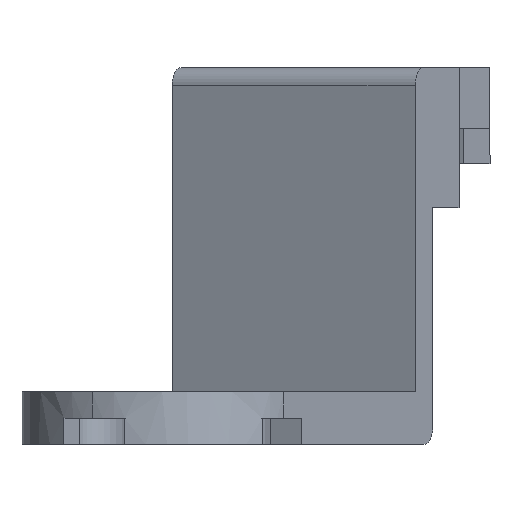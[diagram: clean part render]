
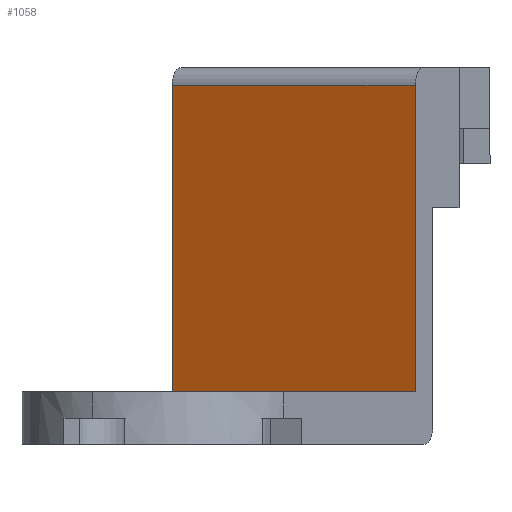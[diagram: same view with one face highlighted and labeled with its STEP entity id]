
A CAD part, left-side view. The second image highlights one B-rep face of the part: STEP entity #1058.
In plain terms, the highlighted planar face has unit normal (-0.866, 0.5, 0) as drawn and (-1, 0, 0) by its records, which use the part's own axes.
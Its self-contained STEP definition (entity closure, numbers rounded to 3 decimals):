
#77 = VERTEX_POINT ( 'NONE', #948 ) ;
#101 = CARTESIAN_POINT ( 'NONE',  ( 15., -8., 0. ) ) ;
#116 = EDGE_CURVE ( 'NONE', #77, #1614, #1662, .T. ) ;
#126 = CARTESIAN_POINT ( 'NONE',  ( 15., 8., 0. ) ) ;
#129 = ORIENTED_EDGE ( 'NONE', *, *, #116, .T. ) ;
#166 = LINE ( 'NONE', #758, #592 ) ;
#326 = CARTESIAN_POINT ( 'NONE',  ( 15., -8., -17.5 ) ) ;
#349 = DIRECTION ( 'NONE',  ( 0., -1., 0. ) ) ;
#384 = VECTOR ( 'NONE', #777, 1000. ) ;
#426 = VECTOR ( 'NONE', #1021, 1000. ) ;
#491 = ORIENTED_EDGE ( 'NONE', *, *, #1215, .T. ) ;
#532 = VECTOR ( 'NONE', #349, 1000. ) ;
#592 = VECTOR ( 'NONE', #1336, 1000. ) ;
#651 = CARTESIAN_POINT ( 'NONE',  ( 15., -44.401, -17.5 ) ) ;
#653 = CARTESIAN_POINT ( 'NONE',  ( 15., -8., -32. ) ) ;
#716 = AXIS2_PLACEMENT_3D ( 'NONE', #1004, #1442, #1307 ) ;
#729 = CARTESIAN_POINT ( 'NONE',  ( 15., 8., 0. ) ) ;
#758 = CARTESIAN_POINT ( 'NONE',  ( 15., 8., -32. ) ) ;
#777 = DIRECTION ( 'NONE',  ( 0., 0., 1. ) ) ;
#879 = PLANE ( 'NONE',  #716 ) ;
#948 = CARTESIAN_POINT ( 'NONE',  ( 15., 8., -17.5 ) ) ;
#1004 = CARTESIAN_POINT ( 'NONE',  ( 15., -44.401, -32. ) ) ;
#1021 = DIRECTION ( 'NONE',  ( 0., 1., 0. ) ) ;
#1058 = ADVANCED_FACE ( 'NONE', ( #1585 ), #879, .T. ) ;
#1215 = EDGE_CURVE ( 'NONE', #1614, #1252, #1350, .T. ) ;
#1230 = EDGE_CURVE ( 'NONE', #77, #1805, #166, .T. ) ;
#1252 = VERTEX_POINT ( 'NONE', #101 ) ;
#1301 = LINE ( 'NONE', #729, #426 ) ;
#1307 = DIRECTION ( 'NONE',  ( 0., 0., 1. ) ) ;
#1336 = DIRECTION ( 'NONE',  ( 0., 0., 1. ) ) ;
#1350 = LINE ( 'NONE', #653, #384 ) ;
#1400 = ORIENTED_EDGE ( 'NONE', *, *, #1230, .F. ) ;
#1442 = DIRECTION ( 'NONE',  ( -1., 0., 0. ) ) ;
#1579 = EDGE_LOOP ( 'NONE', ( #1400, #129, #491, #1710 ) ) ;
#1585 = FACE_OUTER_BOUND ( 'NONE', #1579, .T. ) ;
#1614 = VERTEX_POINT ( 'NONE', #326 ) ;
#1662 = LINE ( 'NONE', #651, #532 ) ;
#1710 = ORIENTED_EDGE ( 'NONE', *, *, #1747, .T. ) ;
#1747 = EDGE_CURVE ( 'NONE', #1252, #1805, #1301, .T. ) ;
#1805 = VERTEX_POINT ( 'NONE', #126 ) ;
